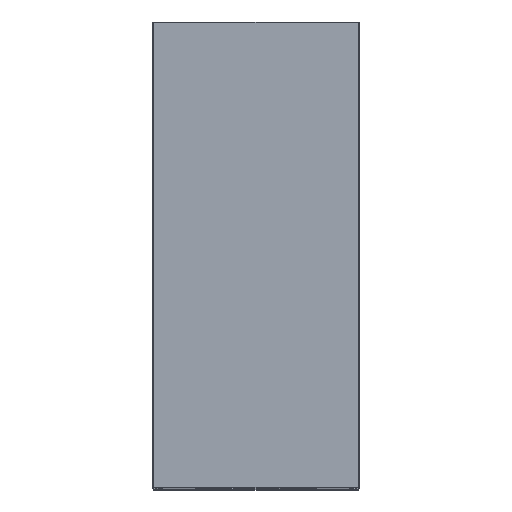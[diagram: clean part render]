
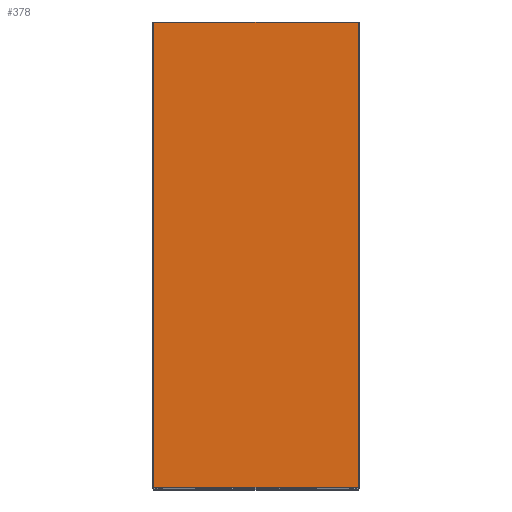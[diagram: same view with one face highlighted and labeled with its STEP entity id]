
A CAD part, top view. The second image highlights one B-rep face of the part: STEP entity #378.
In plain terms, the highlighted planar face has unit normal (0, 0, 1).
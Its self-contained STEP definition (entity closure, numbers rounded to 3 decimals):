
#268 = EDGE_CURVE ( 'NONE', #1283, #1307, #2083, .T. ) ;
#274 = EDGE_CURVE ( 'NONE', #1278, #1308, #2073, .T. ) ;
#378 = ADVANCED_FACE ( 'NONE', ( #1822 ), #767, .T. ) ;
#412 = EDGE_CURVE ( 'NONE', #1308, #1283, #850, .T. ) ;
#484 = EDGE_CURVE ( 'NONE', #1307, #1278, #2139, .T. ) ;
#667 = EDGE_LOOP ( 'NONE', ( #2440, #2416, #1424, #2415 ) ) ;
#767 = PLANE ( 'NONE',  #1824 ) ;
#768 = CARTESIAN_POINT ( 'NONE',  ( 0., 0., 65. ) ) ;
#769 = DIRECTION ( 'NONE',  ( 0., 0., 1. ) ) ;
#770 = DIRECTION ( 'NONE',  ( 1., 0., 0. ) ) ;
#850 = LINE ( 'NONE', #851, #1859 ) ;
#851 = CARTESIAN_POINT ( 'NONE',  ( 11., 25., 65. ) ) ;
#852 = DIRECTION ( 'NONE',  ( 0., 1., 0. ) ) ;
#1278 = VERTEX_POINT ( 'NONE', #2243 ) ;
#1283 = VERTEX_POINT ( 'NONE', #2246 ) ;
#1307 = VERTEX_POINT ( 'NONE', #2260 ) ;
#1308 = VERTEX_POINT ( 'NONE', #2261 ) ;
#1424 = ORIENTED_EDGE ( 'NONE', *, *, #412, .T. ) ;
#1507 = VECTOR ( 'NONE', #2075, 1000. ) ;
#1514 = VECTOR ( 'NONE', #2085, 1000. ) ;
#1822 = FACE_OUTER_BOUND ( 'NONE', #667, .T. ) ;
#1824 = AXIS2_PLACEMENT_3D ( 'NONE', #768, #769, #770 ) ;
#1859 = VECTOR ( 'NONE', #852, 1000. ) ;
#1932 = VECTOR ( 'NONE', #2141, 1000. ) ;
#2072 = CARTESIAN_POINT ( 'NONE',  ( -11., -25., 65. ) ) ;
#2073 = LINE ( 'NONE', #2072, #1507 ) ;
#2075 = DIRECTION ( 'NONE',  ( 1., 0., 0. ) ) ;
#2082 = CARTESIAN_POINT ( 'NONE',  ( -11., 25., 65. ) ) ;
#2083 = LINE ( 'NONE', #2082, #1514 ) ;
#2085 = DIRECTION ( 'NONE',  ( -1., 0., 0. ) ) ;
#2139 = LINE ( 'NONE', #2140, #1932 ) ;
#2140 = CARTESIAN_POINT ( 'NONE',  ( -11., 25., 65. ) ) ;
#2141 = DIRECTION ( 'NONE',  ( 0., -1., 0. ) ) ;
#2243 = CARTESIAN_POINT ( 'NONE',  ( -11., -25., 65. ) ) ;
#2246 = CARTESIAN_POINT ( 'NONE',  ( 11., 25., 65. ) ) ;
#2260 = CARTESIAN_POINT ( 'NONE',  ( -11., 25., 65. ) ) ;
#2261 = CARTESIAN_POINT ( 'NONE',  ( 11., -25., 65. ) ) ;
#2415 = ORIENTED_EDGE ( 'NONE', *, *, #268, .T. ) ;
#2416 = ORIENTED_EDGE ( 'NONE', *, *, #274, .T. ) ;
#2440 = ORIENTED_EDGE ( 'NONE', *, *, #484, .T. ) ;
